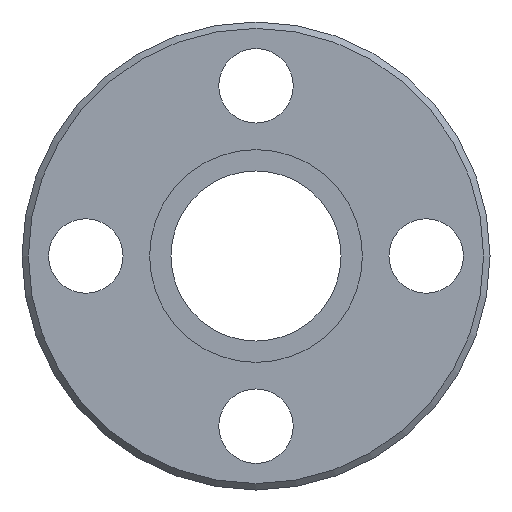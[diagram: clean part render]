
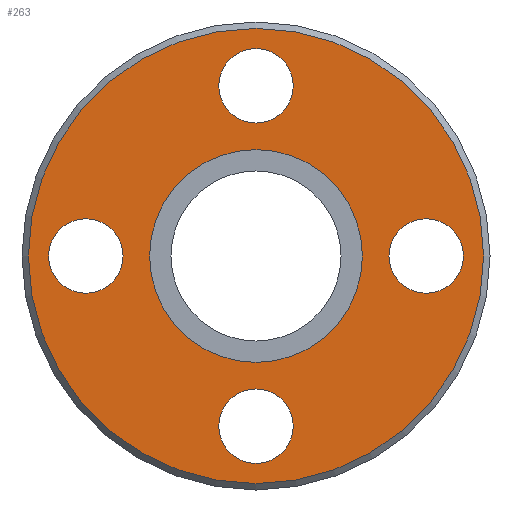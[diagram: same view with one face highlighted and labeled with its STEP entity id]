
A CAD part, front view. The second image highlights one B-rep face of the part: STEP entity #263.
In plain terms, the highlighted planar face has unit normal (0, -1, 0).
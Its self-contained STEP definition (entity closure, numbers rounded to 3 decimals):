
#23=FACE_BOUND('',#92,.T.);
#24=FACE_BOUND('',#93,.T.);
#25=FACE_BOUND('',#94,.T.);
#26=FACE_BOUND('',#95,.T.);
#27=FACE_BOUND('',#96,.T.);
#31=PLANE('',#311);
#69=FACE_OUTER_BOUND('',#91,.T.);
#91=EDGE_LOOP('',(#221));
#92=EDGE_LOOP('',(#222));
#93=EDGE_LOOP('',(#223));
#94=EDGE_LOOP('',(#224));
#95=EDGE_LOOP('',(#225));
#96=EDGE_LOOP('',(#226));
#121=CIRCLE('',#308,10.7);
#123=CIRCLE('',#312,5.);
#124=CIRCLE('',#313,1.75);
#125=CIRCLE('',#314,1.75);
#126=CIRCLE('',#315,1.75);
#127=CIRCLE('',#316,1.75);
#143=VERTEX_POINT('',#457);
#145=VERTEX_POINT('',#465);
#146=VERTEX_POINT('',#467);
#147=VERTEX_POINT('',#469);
#148=VERTEX_POINT('',#471);
#149=VERTEX_POINT('',#473);
#170=EDGE_CURVE('',#143,#143,#121,.T.);
#173=EDGE_CURVE('',#145,#145,#123,.T.);
#174=EDGE_CURVE('',#146,#146,#124,.T.);
#175=EDGE_CURVE('',#147,#147,#125,.T.);
#176=EDGE_CURVE('',#148,#148,#126,.T.);
#177=EDGE_CURVE('',#149,#149,#127,.T.);
#221=ORIENTED_EDGE('',*,*,#170,.F.);
#222=ORIENTED_EDGE('',*,*,#173,.T.);
#223=ORIENTED_EDGE('',*,*,#174,.T.);
#224=ORIENTED_EDGE('',*,*,#175,.T.);
#225=ORIENTED_EDGE('',*,*,#176,.T.);
#226=ORIENTED_EDGE('',*,*,#177,.T.);
#263=ADVANCED_FACE('',(#69,#23,#24,#25,#26,#27),#31,.F.);
#308=AXIS2_PLACEMENT_3D('',#459,#376,#377);
#311=AXIS2_PLACEMENT_3D('',#464,#383,#384);
#312=AXIS2_PLACEMENT_3D('',#466,#385,#386);
#313=AXIS2_PLACEMENT_3D('',#468,#387,#388);
#314=AXIS2_PLACEMENT_3D('',#470,#389,#390);
#315=AXIS2_PLACEMENT_3D('',#472,#391,#392);
#316=AXIS2_PLACEMENT_3D('',#474,#393,#394);
#376=DIRECTION('center_axis',(0.,1.,0.));
#377=DIRECTION('ref_axis',(-1.,0.,0.));
#383=DIRECTION('center_axis',(0.,1.,0.));
#384=DIRECTION('ref_axis',(-1.,0.,0.));
#385=DIRECTION('center_axis',(0.,1.,0.));
#386=DIRECTION('ref_axis',(1.,0.,0.));
#387=DIRECTION('center_axis',(0.,1.,0.));
#388=DIRECTION('ref_axis',(-1.,0.,0.));
#389=DIRECTION('center_axis',(0.,1.,0.));
#390=DIRECTION('ref_axis',(0.,0.,1.));
#391=DIRECTION('center_axis',(0.,1.,0.));
#392=DIRECTION('ref_axis',(1.,0.,0.));
#393=DIRECTION('center_axis',(0.,1.,0.));
#394=DIRECTION('ref_axis',(0.,0.,-1.));
#457=CARTESIAN_POINT('',(10.7,10.,0.));
#459=CARTESIAN_POINT('Origin',(0.,10.,0.));
#464=CARTESIAN_POINT('Origin',(0.,10.,0.));
#465=CARTESIAN_POINT('',(-5.,10.,0.));
#466=CARTESIAN_POINT('Origin',(0.,10.,0.));
#467=CARTESIAN_POINT('',(9.75,10.,0.));
#468=CARTESIAN_POINT('Origin',(8.,10.,0.));
#469=CARTESIAN_POINT('',(0.,10.,-9.75));
#470=CARTESIAN_POINT('Origin',(0.,10.,-8.));
#471=CARTESIAN_POINT('',(-9.75,10.,0.));
#472=CARTESIAN_POINT('Origin',(-8.,10.,0.));
#473=CARTESIAN_POINT('',(0.,10.,9.75));
#474=CARTESIAN_POINT('Origin',(0.,10.,8.));
